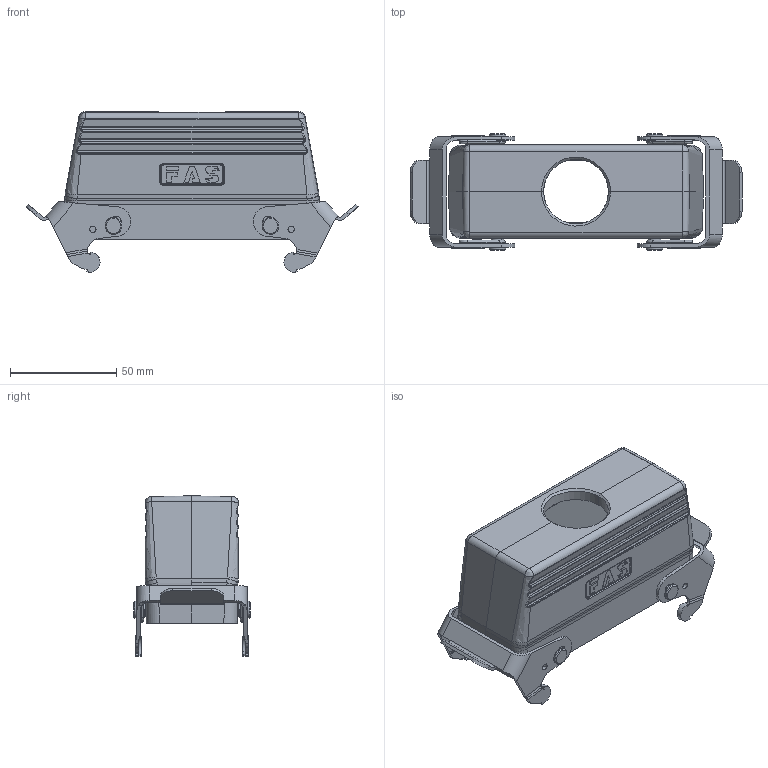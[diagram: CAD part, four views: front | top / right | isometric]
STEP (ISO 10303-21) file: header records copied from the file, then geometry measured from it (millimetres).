
FILE_DESCRIPTION (( 'STEP AP203' ), '1' );
FILE_NAME ('H24B-TBF-M32.STEP', '2020-11-20T07:02:02', ( '' ), ( '' ), 'SwSTEP 2.0', 'SolidWorks 2016', '' );
FILE_SCHEMA (( 'CONFIG_CONTROL_DESIGN' ));
Length unit declared in the file: millimetre
Products named in the file (6): jinshushuangkou; tanhuang; H24B-TBF-M32; maoding; 24bcaixinshuangkou; H24B-TBF-M32 奻褲
Assembly tree (8 placements, depth 3):
  H24B-TBF-M32
    H24B-TBF-M32 奻褲
    jinshushuangkou  x2
      24bcaixinshuangkou
      tanhuang
      maoding
Bounding box: 156.49 x 55 x 75.56 mm (x, y, z)
Volume: 96149.6 mm3; surface area: 55071.2 mm2
Topology: 11 solids, 11 shells, 846 faces, 2063 edges, 1278 vertices
Faces by surface type: cylinder 305, plane 283, bspline 204, cone 54
Entity records: 28264 total; most frequent: CARTESIAN_POINT 14084, ORIENTED_EDGE 3096, DIRECTION 2403, EDGE_CURVE 1548, VERTEX_POINT 952, AXIS2_PLACEMENT_3D 846, LINE 711, VECTOR 711
